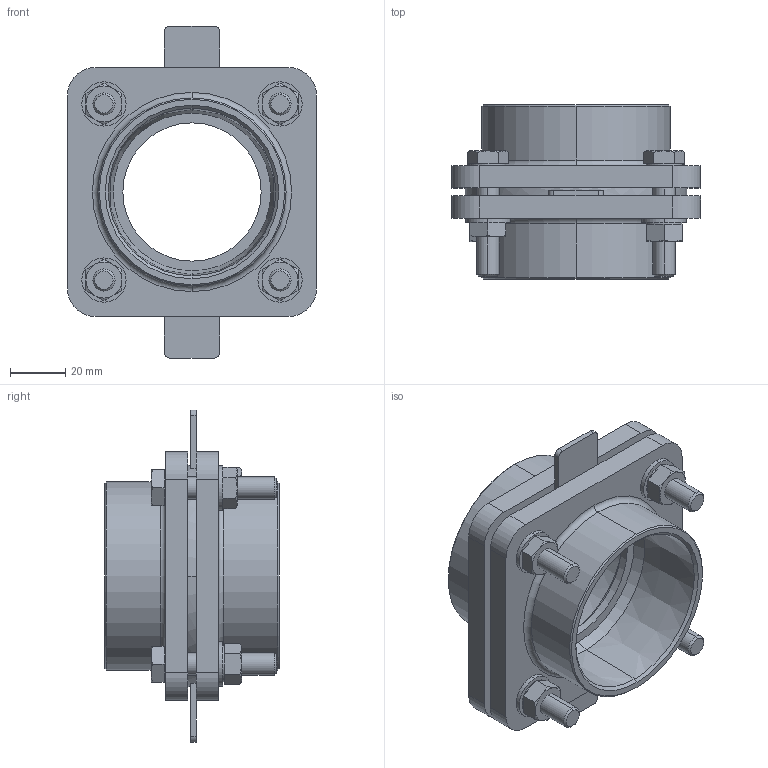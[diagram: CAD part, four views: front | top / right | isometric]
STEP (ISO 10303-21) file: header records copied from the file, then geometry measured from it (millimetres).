
FILE_DESCRIPTION (( 'STEP AP214' ), '1' );
FILE_NAME ('KP_F16-63FF.STEP', '2014-01-20T14:26:02', ( 'robinj' ), ( 'Microsoft' ), 'SwSTEP 2.0', 'SolidWorks 2014', '' );
FILE_SCHEMA (( 'AUTOMOTIVE_DESIGN' ));
Length unit declared in the file: millimetre
Products named in the file (1): KP_F16-63FF
Bounding box: 90 x 63 x 120 mm (x, y, z)
Volume: 139685.9 mm3; surface area: 52938.2 mm2
Topology: 1 solids, 1 shells, 299 faces, 664 edges, 396 vertices
Faces by surface type: plane 141, cylinder 74, cone 72, torus 12
Entity records: 9497 total; most frequent: CARTESIAN_POINT 1904, DIRECTION 1448, ORIENTED_EDGE 1328, EDGE_CURVE 664, AXIS2_PLACEMENT_3D 580, VERTEX_POINT 396, EDGE_LOOP 338, ADVANCED_FACE 299
